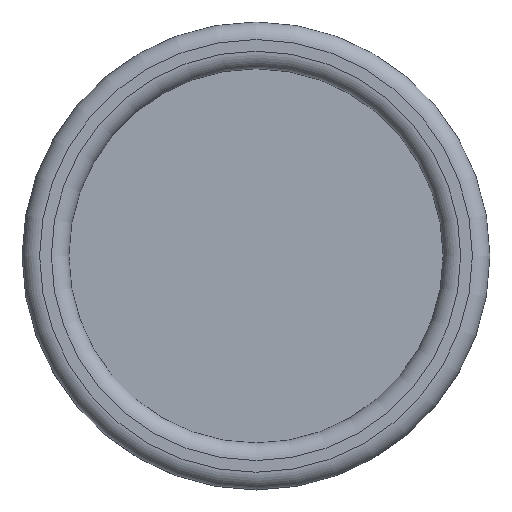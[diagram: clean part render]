
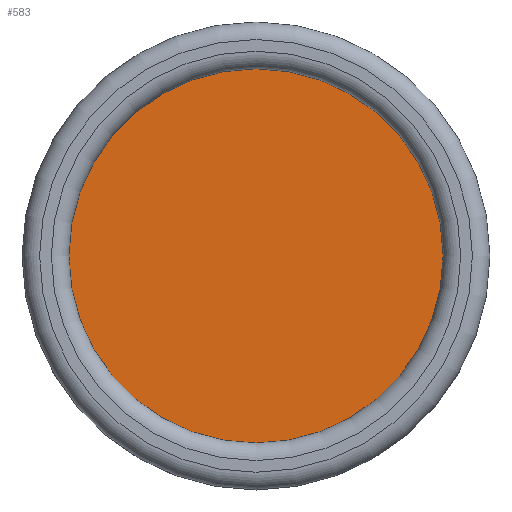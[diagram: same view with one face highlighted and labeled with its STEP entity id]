
A CAD part, top view. The second image highlights one B-rep face of the part: STEP entity #583.
In plain terms, the highlighted planar face has unit normal (0, 0, 1).
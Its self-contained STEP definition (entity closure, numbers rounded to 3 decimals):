
#492=CARTESIAN_POINT('',(16.0,0.,28.2));
#493=VERTEX_POINT('',#492);
#494=CARTESIAN_POINT('',(0.0,0.0,28.2));
#495=DIRECTION('',(0.0,0.0,1.0));
#496=DIRECTION('',(-1.0,0.0,0.0));
#497=AXIS2_PLACEMENT_3D('',#494,#495,#496);
#498=CIRCLE('',#497,16.0);
#499=EDGE_CURVE('',#493,#493,#498,.T.);
#575=CARTESIAN_POINT('',(0.0,0.0,28.2));
#576=DIRECTION('',(0.0,0.0,-1.0));
#577=DIRECTION('',(-1.0,0.0,0.0));
#578=AXIS2_PLACEMENT_3D('',#575,#576,#577);
#579=PLANE('',#578);
#580=ORIENTED_EDGE('',*,*,#499,.T.);
#581=EDGE_LOOP('',(#580));
#582=FACE_OUTER_BOUND('',#581,.T.);
#583=ADVANCED_FACE('',(#582),#579,.F.);
